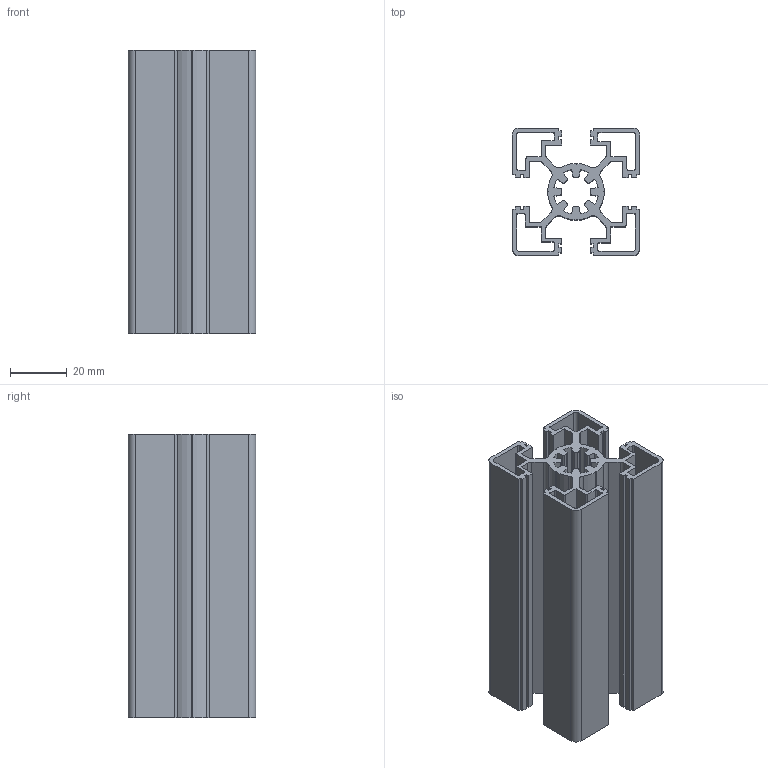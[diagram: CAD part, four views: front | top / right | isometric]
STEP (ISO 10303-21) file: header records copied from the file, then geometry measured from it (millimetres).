
FILE_DESCRIPTION((''),'2;1');
FILE_NAME('E:\catalogue and flyer\Profile catalogue 2015\profile-step file,31MAr16\PSLM4545L-10.stp','2016-03-31T14:16:35',('h029'),(''),'Autodesk Inventor 11','Autodesk Inventor 11','');
FILE_SCHEMA(('AUTOMOTIVE_DESIGN { 1 0 10303 214 1 1 1 1 }'));
Length unit declared in the file: millimetre
Products named in the file (1): LM4545L-10
Bounding box: 45 x 45 x 100 mm (x, y, z)
Volume: 60530.5 mm3; surface area: 68318.8 mm2
Topology: 1 solids, 1 shells, 234 faces, 696 edges, 464 vertices
Faces by surface type: plane 146, cylinder 88
Entity records: 7899 total; most frequent: CARTESIAN_POINT 1395, ORIENTED_EDGE 1392, DIRECTION 1342, EDGE_CURVE 696, VECTOR 520, LINE 520, VERTEX_POINT 464, AXIS2_PLACEMENT_3D 411
